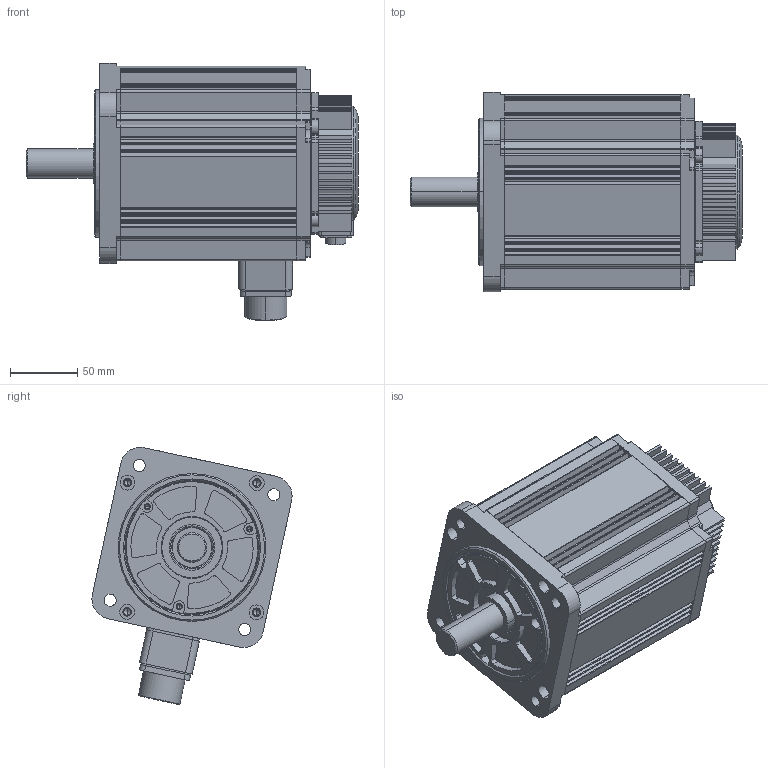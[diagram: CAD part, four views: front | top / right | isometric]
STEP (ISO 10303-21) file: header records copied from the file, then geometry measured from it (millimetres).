
FILE_DESCRIPTION (( 'STEP AP203' ), '1' );
FILE_NAME ('UMM-0020EA-B2 UMM-0020CA-B2.STEP', '2019-04-18T06:46:27', ( '' ), ( '' ), 'SwSTEP 2.0', 'SolidWorks 2017', '' );
FILE_SCHEMA (( 'CONFIG_CONTROL_DESIGN' ));
Length unit declared in the file: millimetre
Products named in the file (1): UMM-0020EA-B2 UMM-0020CA-B2
Bounding box: 247 x 148.89 x 191.37 mm (x, y, z)
Volume: 1077496.2 mm3; surface area: 373490.8 mm2
Topology: 12 solids, 12 shells, 1436 faces, 4069 edges, 2619 vertices
Faces by surface type: cylinder 654, plane 504, bspline 162, cone 116
Entity records: 54339 total; most frequent: CARTESIAN_POINT 17306, ORIENTED_EDGE 7918, DIRECTION 7773, EDGE_CURVE 3959, AXIS2_PLACEMENT_3D 2955, VERTEX_POINT 2619, LINE 1863, VECTOR 1863
